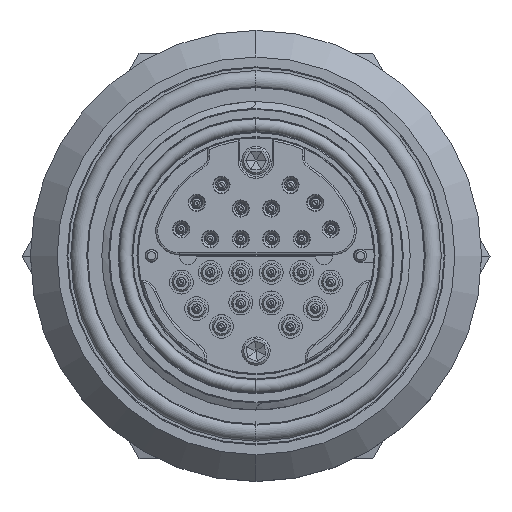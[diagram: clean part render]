
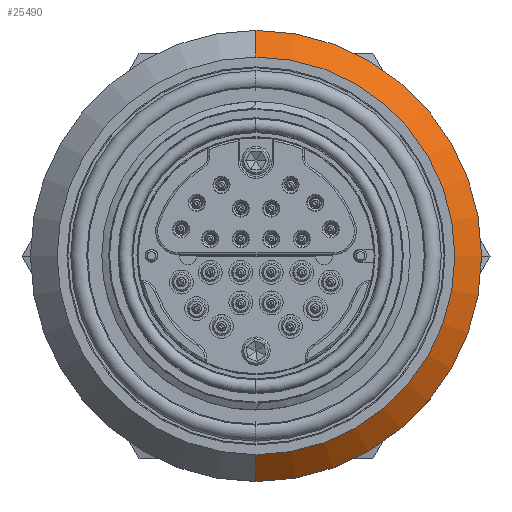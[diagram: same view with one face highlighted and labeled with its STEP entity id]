
A CAD part, top view. The second image highlights one B-rep face of the part: STEP entity #25490.
In plain terms, the highlighted conical face has half-angle 45 degrees and reference radius 30.035 mm.
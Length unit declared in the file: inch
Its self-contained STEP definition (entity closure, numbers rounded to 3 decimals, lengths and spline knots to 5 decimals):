
#660 = FACE_OUTER_BOUND ( 'NONE', #40052, .T. ) ;
#3304 = DIRECTION ( 'NONE',  ( 0., 1., 0. ) ) ;
#3333 = ORIENTED_EDGE ( 'NONE', *, *, #35242, .T. ) ;
#5962 = VERTEX_POINT ( 'NONE', #42321 ) ;
#6156 = CARTESIAN_POINT ( 'NONE',  ( 0., 1.1825, -0.70222 ) ) ;
#6551 = DIRECTION ( 'NONE',  ( 0., 0., -1. ) ) ;
#6689 = EDGE_CURVE ( 'NONE', #7293, #23085, #45064, .T. ) ;
#6764 = DIRECTION ( 'NONE',  ( 0., 1., 0. ) ) ;
#7293 = VERTEX_POINT ( 'NONE', #40453 ) ;
#9545 = CARTESIAN_POINT ( 'NONE',  ( 0., 0., -0.56222 ) ) ;
#9789 = VECTOR ( 'NONE', #22879, 39.37008 ) ;
#10055 = DIRECTION ( 'NONE',  ( 0., 0.707, -0.707 ) ) ;
#12441 = CARTESIAN_POINT ( 'NONE',  ( 0., -1.1825, -0.70222 ) ) ;
#15458 = DIRECTION ( 'NONE',  ( 0., 1., 0. ) ) ;
#15526 = CIRCLE ( 'NONE', #27419, 1.0425 ) ;
#16202 = AXIS2_PLACEMENT_3D ( 'NONE', #25708, #43320, #15458 ) ;
#16934 = CONICAL_SURFACE ( 'NONE', #16202, 1.1825, 0.785 ) ;
#18304 = VECTOR ( 'NONE', #10055, 39.37008 ) ;
#19255 = AXIS2_PLACEMENT_3D ( 'NONE', #20916, #30904, #3304 ) ;
#20916 = CARTESIAN_POINT ( 'NONE',  ( 0., 0., -0.70222 ) ) ;
#22879 = DIRECTION ( 'NONE',  ( 0., -0.707, -0.707 ) ) ;
#23085 = VERTEX_POINT ( 'NONE', #38625 ) ;
#24928 = VERTEX_POINT ( 'NONE', #40039 ) ;
#25490 = ADVANCED_FACE ( 'NONE', ( #660 ), #16934, .T. ) ;
#25708 = CARTESIAN_POINT ( 'NONE',  ( 0., 0., -0.70222 ) ) ;
#27419 = AXIS2_PLACEMENT_3D ( 'NONE', #9545, #6551, #6764 ) ;
#30674 = ORIENTED_EDGE ( 'NONE', *, *, #32772, .T. ) ;
#30904 = DIRECTION ( 'NONE',  ( 0., 0., -1. ) ) ;
#32772 = EDGE_CURVE ( 'NONE', #7293, #24928, #15526, .T. ) ;
#32806 = EDGE_CURVE ( 'NONE', #23085, #5962, #42217, .T. ) ;
#35242 = EDGE_CURVE ( 'NONE', #24928, #5962, #43991, .T. ) ;
#38625 = CARTESIAN_POINT ( 'NONE',  ( 0., 1.1825, -0.70222 ) ) ;
#39894 = ORIENTED_EDGE ( 'NONE', *, *, #6689, .F. ) ;
#40039 = CARTESIAN_POINT ( 'NONE',  ( 0., -1.0425, -0.56222 ) ) ;
#40052 = EDGE_LOOP ( 'NONE', ( #30674, #3333, #40214, #39894 ) ) ;
#40214 = ORIENTED_EDGE ( 'NONE', *, *, #32806, .F. ) ;
#40453 = CARTESIAN_POINT ( 'NONE',  ( 0., 1.0425, -0.56222 ) ) ;
#42217 = CIRCLE ( 'NONE', #19255, 1.1825 ) ;
#42321 = CARTESIAN_POINT ( 'NONE',  ( 0., -1.1825, -0.70222 ) ) ;
#43320 = DIRECTION ( 'NONE',  ( 0., 0., -1. ) ) ;
#43991 = LINE ( 'NONE', #12441, #9789 ) ;
#45064 = LINE ( 'NONE', #6156, #18304 ) ;
